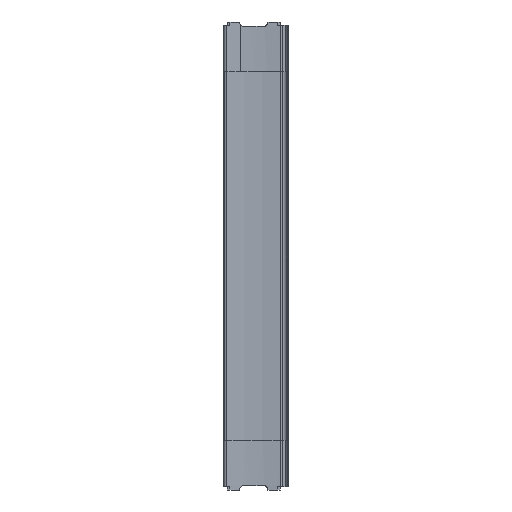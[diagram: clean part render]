
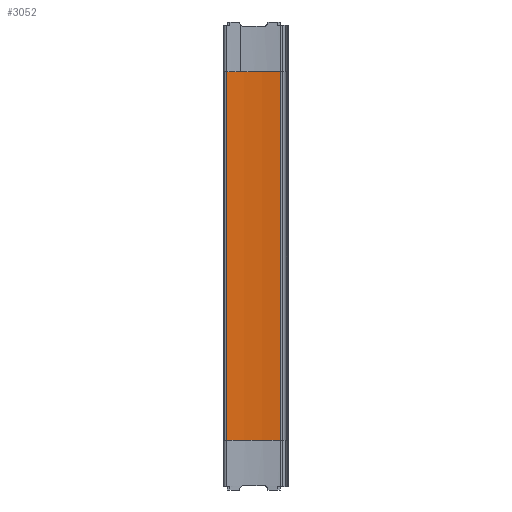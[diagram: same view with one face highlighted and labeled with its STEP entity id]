
A CAD part, left-side view. The second image highlights one B-rep face of the part: STEP entity #3052.
In plain terms, the highlighted cylindrical face has radius 250 mm (diameter 500 mm), a partial arc.
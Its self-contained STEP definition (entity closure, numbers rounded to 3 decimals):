
#162 = EDGE_LOOP ( 'NONE', ( #1406, #960, #949, #972 ) ) ;
#895 = CIRCLE ( 'NONE', #2972, 250. ) ;
#898 = CIRCLE ( 'NONE', #2976, 250. ) ;
#900 = VECTOR ( 'NONE', #3891, 1000. ) ;
#907 = LINE ( 'NONE', #3890, #900 ) ;
#949 = ORIENTED_EDGE ( 'NONE', *, *, #3263, .F. ) ;
#960 = ORIENTED_EDGE ( 'NONE', *, *, #3264, .F. ) ;
#972 = ORIENTED_EDGE ( 'NONE', *, *, #3157, .T. ) ;
#1072 = LINE ( 'NONE', #3563, #1074 ) ;
#1074 = VECTOR ( 'NONE', #3564, 1000. ) ;
#1220 = CYLINDRICAL_SURFACE ( 'NONE', #2829, 250. ) ;
#1223 = FACE_OUTER_BOUND ( 'NONE', #162, .T. ) ;
#1406 = ORIENTED_EDGE ( 'NONE', *, *, #3265, .F. ) ;
#2034 = CARTESIAN_POINT ( 'NONE',  ( -5.747, 63.571, 189.3 ) ) ;
#2037 = CARTESIAN_POINT ( 'NONE',  ( -5.747, 63.571, -189.3 ) ) ;
#2219 = VERTEX_POINT ( 'NONE', #2034 ) ;
#2222 = VERTEX_POINT ( 'NONE', #2037 ) ;
#2352 = VERTEX_POINT ( 'NONE', #2454 ) ;
#2354 = VERTEX_POINT ( 'NONE', #2456 ) ;
#2454 = CARTESIAN_POINT ( 'NONE',  ( -8.643, 8.331, -189.3 ) ) ;
#2456 = CARTESIAN_POINT ( 'NONE',  ( -8.643, 8.331, 189.3 ) ) ;
#2658 = CARTESIAN_POINT ( 'NONE',  ( -255.319, 48.963, 195.3 ) ) ;
#2659 = DIRECTION ( 'NONE',  ( 0., 0., -1. ) ) ;
#2660 = DIRECTION ( 'NONE',  ( -1., 0., 0. ) ) ;
#2829 = AXIS2_PLACEMENT_3D ( 'NONE', #2658, #2659, #2660 ) ;
#2972 = AXIS2_PLACEMENT_3D ( 'NONE', #3892, #3894, #3895 ) ;
#2976 = AXIS2_PLACEMENT_3D ( 'NONE', #3882, #3887, #3888 ) ;
#3052 = ADVANCED_FACE ( 'NONE', ( #1223 ), #1220, .F. ) ;
#3157 = EDGE_CURVE ( 'NONE', #2219, #2222, #1072, .T. ) ;
#3263 = EDGE_CURVE ( 'NONE', #2219, #2354, #898, .T. ) ;
#3264 = EDGE_CURVE ( 'NONE', #2354, #2352, #907, .T. ) ;
#3265 = EDGE_CURVE ( 'NONE', #2352, #2222, #895, .T. ) ;
#3563 = CARTESIAN_POINT ( 'NONE',  ( -5.747, 63.571, 195.3 ) ) ;
#3564 = DIRECTION ( 'NONE',  ( 0., 0., -1. ) ) ;
#3882 = CARTESIAN_POINT ( 'NONE',  ( -255.319, 48.963, 189.3 ) ) ;
#3887 = DIRECTION ( 'NONE',  ( 0., 0., -1. ) ) ;
#3888 = DIRECTION ( 'NONE',  ( 1., 0., 0. ) ) ;
#3890 = CARTESIAN_POINT ( 'NONE',  ( -8.643, 8.331, 195.3 ) ) ;
#3891 = DIRECTION ( 'NONE',  ( 0., 0., -1. ) ) ;
#3892 = CARTESIAN_POINT ( 'NONE',  ( -255.319, 48.963, -189.3 ) ) ;
#3894 = DIRECTION ( 'NONE',  ( 0., 0., 1. ) ) ;
#3895 = DIRECTION ( 'NONE',  ( -1., 0., 0. ) ) ;
